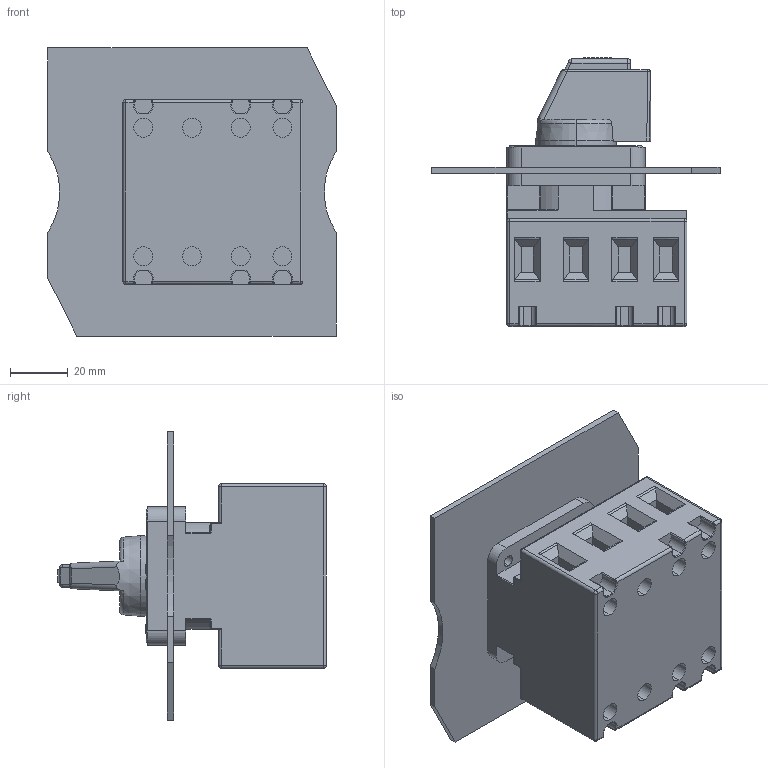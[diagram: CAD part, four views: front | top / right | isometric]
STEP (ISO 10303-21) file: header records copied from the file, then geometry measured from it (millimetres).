
FILE_DESCRIPTION (( 'STEP AP203' ), '1' );
FILE_NAME ('LTS20_25_32_40 EH1 A4.STEP', '2014-05-12T07:20:12', ( '' ), ( '' ), 'SwSTEP 2.0', 'SolidWorks 2014', '' );
FILE_SCHEMA (( 'CONFIG_CONTROL_DESIGN' ));
Length unit declared in the file: millimetre
Products named in the file (4): SV1_48x48; LTS20_25_32_40 EH1 A4; Schalterkörper LTS20_40 E A4; Panel
Assembly tree (3 placements, depth 2):
  LTS20_25_32_40 EH1 A4
    Schalterkörper LTS20_40 E A4
    Panel
    SV1_48x48
Bounding box: 100 x 93.3 x 100 mm (x, y, z)
Volume: 219958.1 mm3; surface area: 55391.5 mm2
Topology: 3 solids, 3 shells, 477 faces, 1196 edges, 746 vertices
Faces by surface type: plane 215, cylinder 163, bspline 57, torus 24, sphere 15, cone 3
Entity records: 17230 total; most frequent: CARTESIAN_POINT 5874, ORIENTED_EDGE 2358, DIRECTION 2156, EDGE_CURVE 1179, VERTEX_POINT 746, AXIS2_PLACEMENT_3D 734, LINE 688, VECTOR 688
